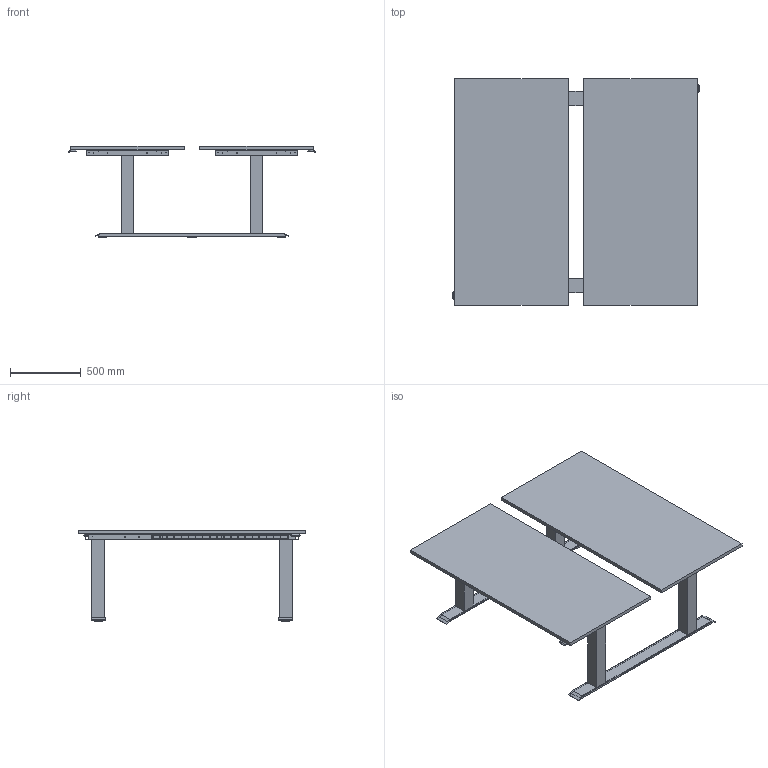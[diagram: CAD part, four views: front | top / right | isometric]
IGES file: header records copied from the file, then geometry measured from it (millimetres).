
Start section: Data from XPlus IGES,  Spatial Corp. Copyright (c) 1999-2004
Global section: file name: 9243969.igs; native system:  By Spatial Corp.; preprocessor: XPlus ACIS/IGES 3.0; author: Noname; organization: Noname; date: 20180228.104213; units: millimetre
Bounding box: 1741.37 x 1600 x 645.5 mm (x, y, z)
Surface area: 9821571.6 mm2 (no closed solid volume)
Topology: 0 solids, 0 shells, 994 faces, 5556 edges, 5556 vertices
Faces by surface type: revolution 656, extrusion 338
